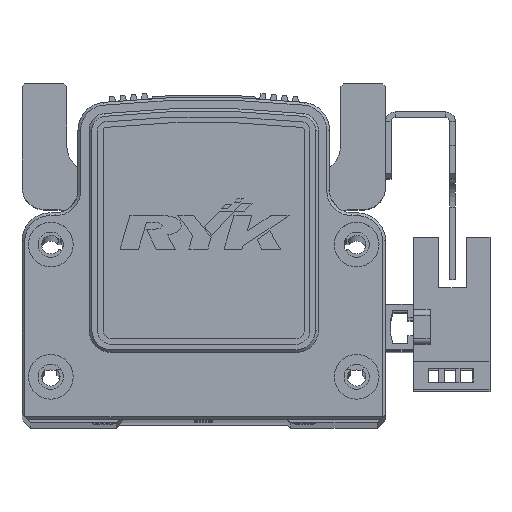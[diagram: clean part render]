
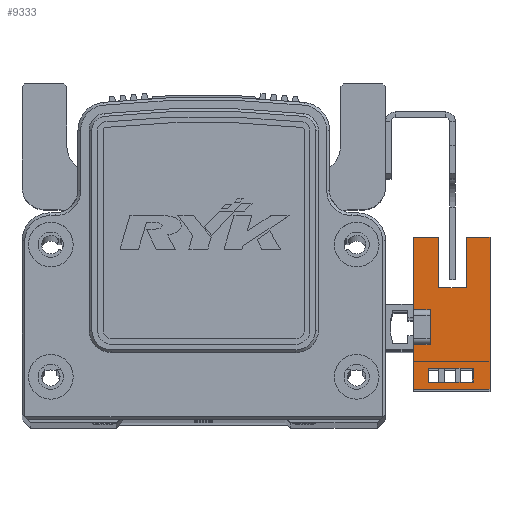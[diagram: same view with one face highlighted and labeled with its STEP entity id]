
A CAD part, top view. The second image highlights one B-rep face of the part: STEP entity #9333.
In plain terms, the highlighted planar face has unit normal (0, 0, 1) as drawn and (1, 0, 0) by its records, which use the part's own axes.
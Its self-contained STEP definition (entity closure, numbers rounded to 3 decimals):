
#16 = EDGE_LOOP ( 'NONE', ( #16822, #16879, #16847, #16841 ) ) ;
#590 = EDGE_LOOP ( 'NONE', ( #16777, #16874, #16882, #16875, #16887, #16835, #16827, #16812, #16883, #16785, #16873, #16787 ) ) ;
#2727 = CARTESIAN_POINT ( 'NONE',  ( 3.2, 25.1, -1.5 ) ) ;
#2733 = CARTESIAN_POINT ( 'NONE',  ( 3.2, -3.1, 3. ) ) ;
#2735 = DIRECTION ( 'NONE',  ( 0., 0., 1. ) ) ;
#2736 = DIRECTION ( 'NONE',  ( 0., -1., 0. ) ) ;
#2739 = CARTESIAN_POINT ( 'NONE',  ( 3.2, -9.83, -10.7 ) ) ;
#2742 = DIRECTION ( 'NONE',  ( 0., 0., -1. ) ) ;
#2746 = CARTESIAN_POINT ( 'NONE',  ( 3.2, 16.1, -10.7 ) ) ;
#2748 = DIRECTION ( 'NONE',  ( 0., 0., -1. ) ) ;
#2751 = CARTESIAN_POINT ( 'NONE',  ( 3.2, 3.1, 3. ) ) ;
#2756 = DIRECTION ( 'NONE',  ( 0., 0., 1. ) ) ;
#2759 = CARTESIAN_POINT ( 'NONE',  ( 3.2, 25.1, -6.5 ) ) ;
#2775 = CARTESIAN_POINT ( 'NONE',  ( 3.2, 16.1, -10.7 ) ) ;
#2788 = CARTESIAN_POINT ( 'NONE',  ( 3.2, -11.1, 3. ) ) ;
#2796 = DIRECTION ( 'NONE',  ( 0., 1., 0. ) ) ;
#2811 = DIRECTION ( 'NONE',  ( 0., 1., 0. ) ) ;
#2825 = DIRECTION ( 'NONE',  ( 0., 0., 1. ) ) ;
#3581 = VERTEX_POINT ( 'NONE', #14848 ) ;
#3616 = VERTEX_POINT ( 'NONE', #14840 ) ;
#3626 = VERTEX_POINT ( 'NONE', #14894 ) ;
#3635 = VERTEX_POINT ( 'NONE', #14927 ) ;
#3640 = VERTEX_POINT ( 'NONE', #14944 ) ;
#3649 = VERTEX_POINT ( 'NONE', #14960 ) ;
#5403 = EDGE_CURVE ( 'NONE', #34520, #3649, #16200, .T. ) ;
#5404 = EDGE_CURVE ( 'NONE', #3635, #34493, #16148, .T. ) ;
#5405 = EDGE_CURVE ( 'NONE', #34515, #34569, #16203, .T. ) ;
#5410 = EDGE_CURVE ( 'NONE', #3626, #34511, #16235, .T. ) ;
#5415 = EDGE_CURVE ( 'NONE', #34499, #3616, #16211, .T. ) ;
#5420 = EDGE_CURVE ( 'NONE', #34524, #34520, #16230, .T. ) ;
#5423 = EDGE_CURVE ( 'NONE', #34531, #3640, #16236, .T. ) ;
#5432 = EDGE_CURVE ( 'NONE', #34531, #3581, #16219, .T. ) ;
#9333 = ADVANCED_FACE ( 'NONE', ( #11031, #11008 ), #21493, .T. ) ;
#11008 = FACE_BOUND ( 'NONE', #16, .T. ) ;
#11031 = FACE_OUTER_BOUND ( 'NONE', #590, .T. ) ;
#14840 = CARTESIAN_POINT ( 'NONE',  ( 3.2, 3.1, 3. ) ) ;
#14848 = CARTESIAN_POINT ( 'NONE',  ( 3.2, -11.1, 3. ) ) ;
#14894 = CARTESIAN_POINT ( 'NONE',  ( 3.2, 16.1, -6.5 ) ) ;
#14927 = CARTESIAN_POINT ( 'NONE',  ( 3.2, -3.1, 3. ) ) ;
#14944 = CARTESIAN_POINT ( 'NONE',  ( 3.2, 16.1, -10.7 ) ) ;
#14960 = CARTESIAN_POINT ( 'NONE',  ( 3.2, 16.1, 3. ) ) ;
#16148 = LINE ( 'NONE', #2733, #16149 ) ;
#16149 = VECTOR ( 'NONE', #2748, 1000. ) ;
#16154 = VECTOR ( 'NONE', #2742, 1000. ) ;
#16200 = LINE ( 'NONE', #2746, #16202 ) ;
#16202 = VECTOR ( 'NONE', #2735, 1000. ) ;
#16203 = LINE ( 'NONE', #2739, #16154 ) ;
#16210 = VECTOR ( 'NONE', #2736, 1000. ) ;
#16211 = LINE ( 'NONE', #2751, #16238 ) ;
#16219 = LINE ( 'NONE', #2788, #16225 ) ;
#16225 = VECTOR ( 'NONE', #2825, 1000. ) ;
#16230 = LINE ( 'NONE', #2727, #16240 ) ;
#16235 = LINE ( 'NONE', #2759, #16210 ) ;
#16236 = LINE ( 'NONE', #2775, #16241 ) ;
#16238 = VECTOR ( 'NONE', #2756, 1000. ) ;
#16240 = VECTOR ( 'NONE', #2811, 1000. ) ;
#16241 = VECTOR ( 'NONE', #2796, 1000. ) ;
#16777 = ORIENTED_EDGE ( 'NONE', *, *, #5410, .T. ) ;
#16785 = ORIENTED_EDGE ( 'NONE', *, *, #5432, .F. ) ;
#16787 = ORIENTED_EDGE ( 'NONE', *, *, #33951, .T. ) ;
#16812 = ORIENTED_EDGE ( 'NONE', *, *, #5404, .F. ) ;
#16822 = ORIENTED_EDGE ( 'NONE', *, *, #33944, .F. ) ;
#16827 = ORIENTED_EDGE ( 'NONE', *, *, #33914, .F. ) ;
#16835 = ORIENTED_EDGE ( 'NONE', *, *, #5415, .F. ) ;
#16841 = ORIENTED_EDGE ( 'NONE', *, *, #5405, .F. ) ;
#16847 = ORIENTED_EDGE ( 'NONE', *, *, #33935, .F. ) ;
#16873 = ORIENTED_EDGE ( 'NONE', *, *, #5423, .T. ) ;
#16874 = ORIENTED_EDGE ( 'NONE', *, *, #33966, .T. ) ;
#16875 = ORIENTED_EDGE ( 'NONE', *, *, #5403, .T. ) ;
#16879 = ORIENTED_EDGE ( 'NONE', *, *, #33934, .F. ) ;
#16882 = ORIENTED_EDGE ( 'NONE', *, *, #5420, .T. ) ;
#16883 = ORIENTED_EDGE ( 'NONE', *, *, #33928, .F. ) ;
#16887 = ORIENTED_EDGE ( 'NONE', *, *, #33861, .F. ) ;
#21493 = PLANE ( 'NONE',  #28201 ) ;
#21495 = DIRECTION ( 'NONE',  ( 1., 0., 0. ) ) ;
#21497 = DIRECTION ( 'NONE',  ( 0., 1., 0. ) ) ;
#21521 = CARTESIAN_POINT ( 'NONE',  ( 3.2, 16.1, -10.7 ) ) ;
#23773 = CARTESIAN_POINT ( 'NONE',  ( 3.2, 16.1, 3. ) ) ;
#23790 = DIRECTION ( 'NONE',  ( 0., 1., 0. ) ) ;
#23928 = DIRECTION ( 'NONE',  ( 0., 1., 0. ) ) ;
#23931 = CARTESIAN_POINT ( 'NONE',  ( 3.2, 0., 0. ) ) ;
#23967 = CARTESIAN_POINT ( 'NONE',  ( 3.2, 16.1, 3. ) ) ;
#23977 = DIRECTION ( 'NONE',  ( 0., 1., 0. ) ) ;
#23980 = CARTESIAN_POINT ( 'NONE',  ( 3.2, 16.1, 0.3 ) ) ;
#23982 = DIRECTION ( 'NONE',  ( 0., 0., 1. ) ) ;
#23983 = DIRECTION ( 'NONE',  ( 0., -1., 0. ) ) ;
#23988 = CARTESIAN_POINT ( 'NONE',  ( 3.2, 16.1, -7.7 ) ) ;
#23996 = CARTESIAN_POINT ( 'NONE',  ( 3.2, -7.33, -10.7 ) ) ;
#24003 = DIRECTION ( 'NONE',  ( 0., 1., 0. ) ) ;
#24013 = CARTESIAN_POINT ( 'NONE',  ( 3.2, 16.1, -10.7 ) ) ;
#24046 = DIRECTION ( 'NONE',  ( 0., 0., 1. ) ) ;
#24072 = CARTESIAN_POINT ( 'NONE',  ( 3.2, 7.1, -6.5 ) ) ;
#24083 = DIRECTION ( 'NONE',  ( 0., 0., 1. ) ) ;
#24101 = CARTESIAN_POINT ( 'NONE',  ( 3.2, 16.1, -1.5 ) ) ;
#24106 = CARTESIAN_POINT ( 'NONE',  ( 3.2, 7.1, -1.5 ) ) ;
#24112 = CARTESIAN_POINT ( 'NONE',  ( 3.2, -9.83, 0.3 ) ) ;
#24127 = CARTESIAN_POINT ( 'NONE',  ( 3.2, 3.1, 0. ) ) ;
#24130 = CARTESIAN_POINT ( 'NONE',  ( 3.2, -7.33, 0.3 ) ) ;
#24144 = CARTESIAN_POINT ( 'NONE',  ( 3.2, -3.1, 0. ) ) ;
#24151 = CARTESIAN_POINT ( 'NONE',  ( 3.2, -11.1, -10.7 ) ) ;
#24159 = CARTESIAN_POINT ( 'NONE',  ( 3.2, -7.33, -7.7 ) ) ;
#24161 = CARTESIAN_POINT ( 'NONE',  ( 3.2, 7.1, -6.5 ) ) ;
#24222 = CARTESIAN_POINT ( 'NONE',  ( 3.2, -9.83, -7.7 ) ) ;
#26611 = VECTOR ( 'NONE', #23790, 1000. ) ;
#26613 = LINE ( 'NONE', #23773, #26611 ) ;
#26689 = LINE ( 'NONE', #23931, #26736 ) ;
#26736 = VECTOR ( 'NONE', #23928, 1000. ) ;
#26748 = VECTOR ( 'NONE', #24003, 1000. ) ;
#26753 = LINE ( 'NONE', #24013, #26795 ) ;
#26763 = VECTOR ( 'NONE', #23983, 1000. ) ;
#26766 = VECTOR ( 'NONE', #23982, 1000. ) ;
#26768 = VECTOR ( 'NONE', #23977, 1000. ) ;
#26783 = LINE ( 'NONE', #23980, #26763 ) ;
#26786 = LINE ( 'NONE', #23988, #26768 ) ;
#26795 = VECTOR ( 'NONE', #24046, 1000. ) ;
#26796 = LINE ( 'NONE', #23996, #26766 ) ;
#26806 = LINE ( 'NONE', #23967, #26748 ) ;
#26812 = VECTOR ( 'NONE', #24083, 1000. ) ;
#26866 = LINE ( 'NONE', #24072, #26812 ) ;
#28201 = AXIS2_PLACEMENT_3D ( 'NONE', #21521, #21495, #21497 ) ;
#33861 = EDGE_CURVE ( 'NONE', #3616, #3649, #26613, .T. ) ;
#33914 = EDGE_CURVE ( 'NONE', #34493, #34499, #26689, .T. ) ;
#33928 = EDGE_CURVE ( 'NONE', #3581, #3635, #26806, .T. ) ;
#33934 = EDGE_CURVE ( 'NONE', #34517, #34500, #26796, .T. ) ;
#33935 = EDGE_CURVE ( 'NONE', #34569, #34517, #26786, .T. ) ;
#33944 = EDGE_CURVE ( 'NONE', #34500, #34515, #26783, .T. ) ;
#33951 = EDGE_CURVE ( 'NONE', #3640, #3626, #26753, .T. ) ;
#33966 = EDGE_CURVE ( 'NONE', #34511, #34524, #26866, .T. ) ;
#34493 = VERTEX_POINT ( 'NONE', #24144 ) ;
#34499 = VERTEX_POINT ( 'NONE', #24127 ) ;
#34500 = VERTEX_POINT ( 'NONE', #24130 ) ;
#34511 = VERTEX_POINT ( 'NONE', #24161 ) ;
#34515 = VERTEX_POINT ( 'NONE', #24112 ) ;
#34517 = VERTEX_POINT ( 'NONE', #24159 ) ;
#34520 = VERTEX_POINT ( 'NONE', #24101 ) ;
#34524 = VERTEX_POINT ( 'NONE', #24106 ) ;
#34531 = VERTEX_POINT ( 'NONE', #24151 ) ;
#34569 = VERTEX_POINT ( 'NONE', #24222 ) ;
